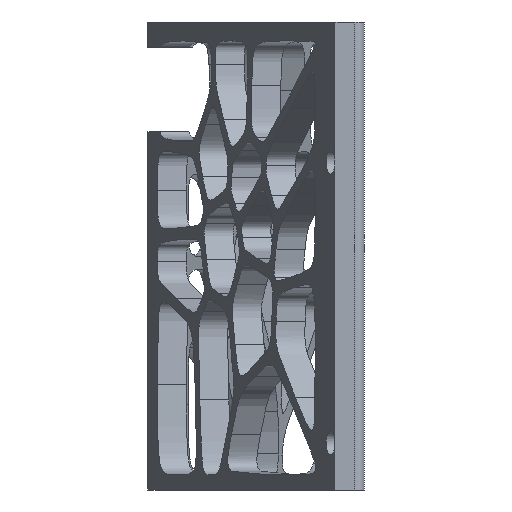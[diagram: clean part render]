
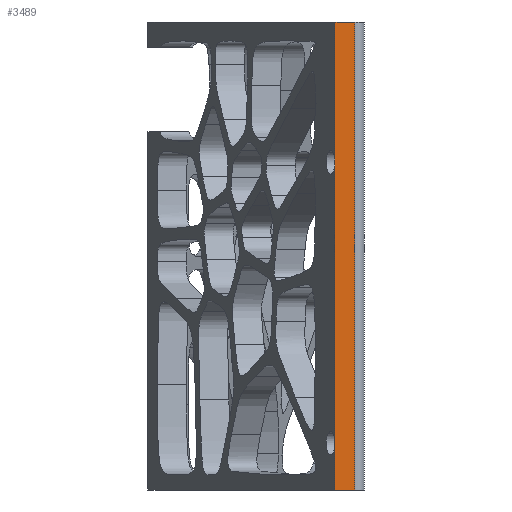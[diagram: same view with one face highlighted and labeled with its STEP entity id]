
A CAD part, left-side view. The second image highlights one B-rep face of the part: STEP entity #3489.
In plain terms, the highlighted planar face has unit normal (-1, 0, 0).
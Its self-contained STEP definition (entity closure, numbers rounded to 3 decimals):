
#276=FACE_OUTER_BOUND('',#491,.T.);
#491=EDGE_LOOP('',(#2602,#2603,#2604,#2605));
#706=LINE('',#4552,#907);
#716=LINE('',#5029,#917);
#718=LINE('',#5039,#919);
#723=LINE('',#5077,#924);
#907=VECTOR('',#3732,10.);
#917=VECTOR('',#3758,10.);
#919=VECTOR('',#3770,10.);
#924=VECTOR('',#3781,10.);
#1537=VERTEX_POINT('',#4549);
#1538=VERTEX_POINT('',#4551);
#1629=VERTEX_POINT('',#5027);
#1632=VERTEX_POINT('',#5037);
#1913=EDGE_CURVE('',#1537,#1538,#706,.T.);
#2008=EDGE_CURVE('',#1629,#1537,#716,.T.);
#2013=EDGE_CURVE('',#1632,#1629,#718,.T.);
#2023=EDGE_CURVE('',#1538,#1632,#723,.T.);
#2602=ORIENTED_EDGE('',*,*,#2013,.F.);
#2603=ORIENTED_EDGE('',*,*,#2023,.F.);
#2604=ORIENTED_EDGE('',*,*,#1913,.F.);
#2605=ORIENTED_EDGE('',*,*,#2008,.F.);
#3473=PLANE('',#3693);
#3489=ADVANCED_FACE('',(#276),#3473,.T.);
#3693=AXIS2_PLACEMENT_3D('',#5076,#3779,#3780);
#3732=DIRECTION('',(0.,0.,1.));
#3758=DIRECTION('',(0.,1.,0.));
#3770=DIRECTION('',(0.,0.,-1.));
#3779=DIRECTION('center_axis',(-1.,0.,0.));
#3780=DIRECTION('ref_axis',(0.,-1.,0.));
#3781=DIRECTION('',(0.,-1.,0.));
#4549=CARTESIAN_POINT('',(-251.476,-105.916,9.));
#4551=CARTESIAN_POINT('',(-251.476,-105.916,59.));
#4552=CARTESIAN_POINT('',(-251.476,-105.916,9.));
#5027=CARTESIAN_POINT('',(-251.476,-108.026,9.));
#5029=CARTESIAN_POINT('',(-251.476,-108.416,9.));
#5037=CARTESIAN_POINT('',(-251.476,-108.026,59.));
#5039=CARTESIAN_POINT('',(-251.476,-108.026,9.));
#5076=CARTESIAN_POINT('Origin',(-251.476,-105.916,9.));
#5077=CARTESIAN_POINT('',(-251.476,-108.416,59.));
